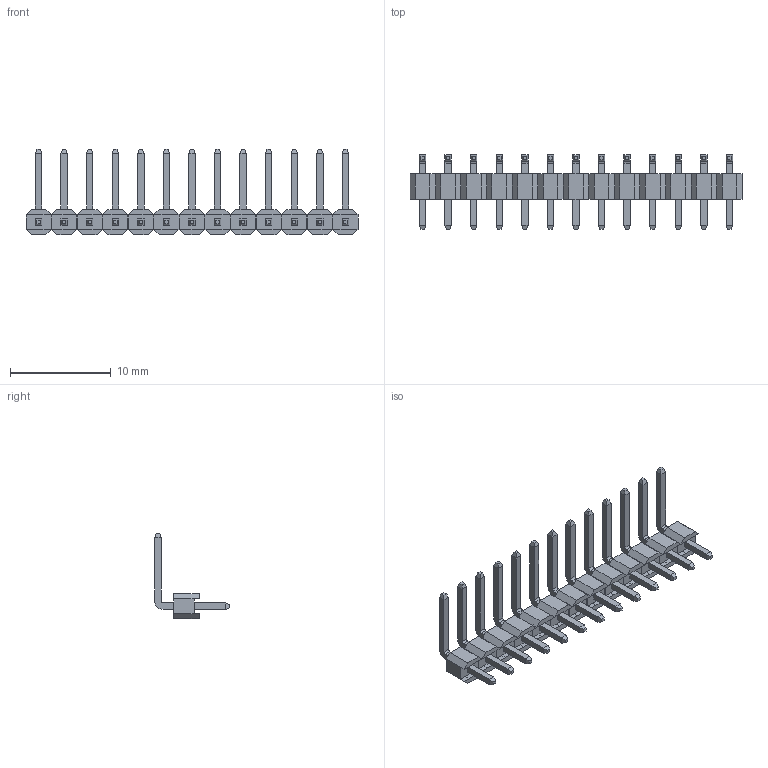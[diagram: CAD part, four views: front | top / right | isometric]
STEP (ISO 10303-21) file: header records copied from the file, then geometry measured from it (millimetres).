
FILE_DESCRIPTION (( 'STEP AP203' ), '1' );
FILE_NAME ('PZ254-1-13-WR-2.5-XX(L7.4) (2.54双排 反弯排针 塑高2.5-HCTL).STEP', '2026-04-30T09:24:05', ( '' ), ( '' ), 'SwSTEP 2.0', 'SolidWorks 2025', '' );
FILE_SCHEMA (( 'CONFIG_CONTROL_DESIGN' ));
Length unit declared in the file: millimetre
Products named in the file (1): PZ254-1-13-WR-2.5-XX(L7.4) (2.54双排 反弯排针 塑高2.5-HCTL)
Bounding box: 32.98 x 7.4 x 8.5 mm (x, y, z)
Volume: 226.1 mm3; surface area: 911.5 mm2
Topology: 25 solids, 25 shells, 592 faces, 1392 edges, 876 vertices
Faces by surface type: plane 566, cylinder 26
Entity records: 16469 total; most frequent: CARTESIAN_POINT 2861, ORIENTED_EDGE 2784, DIRECTION 2630, EDGE_CURVE 1392, VECTOR 1340, LINE 1340, VERTEX_POINT 876, AXIS2_PLACEMENT_3D 645
